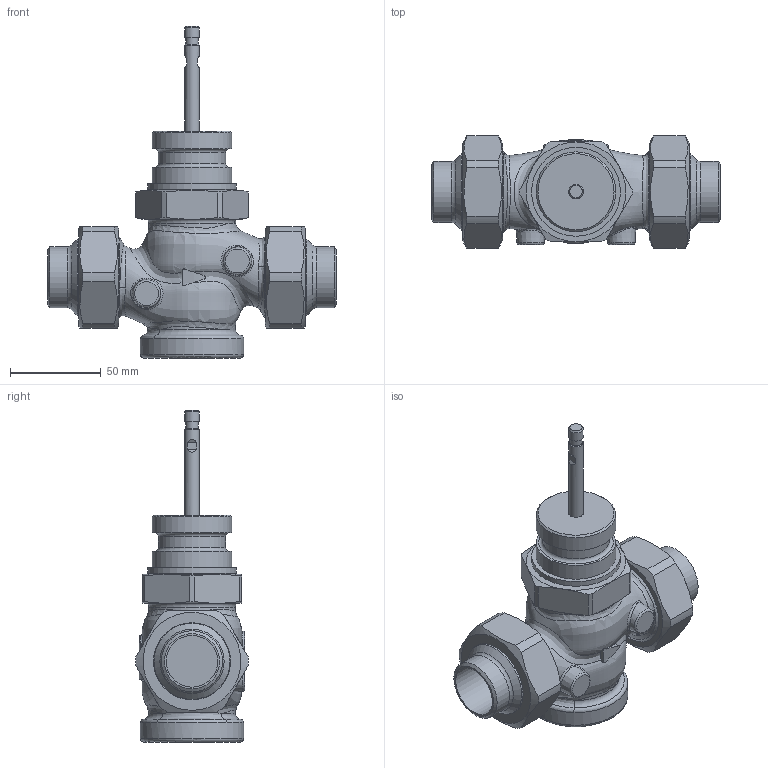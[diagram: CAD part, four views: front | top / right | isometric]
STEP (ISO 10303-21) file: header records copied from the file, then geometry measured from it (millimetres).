
FILE_DESCRIPTION(/* description */ (''),/* implementation_level */ '2;1');
FILE_NAME(/* name */ 'rv122_L_dn25_W.stp',/* time_stamp */ '2025-07-08T09:08:39+02:00',/* author */ ('Jan Novák'),/* organization */ ('LDM'),/* preprocessor_version */ 'ST-DEVELOPER v18.102',/* originating_system */ 'SIEMENS PLM Software NX2206.3001',/* authorisation */ '');
FILE_SCHEMA (('AUTOMOTIVE_DESIGN { 1 0 10303 214 3 1 1 1 }'));
Length unit declared in the file: millimetre
Products named in the file (1): rv_0763-766_rv122_L_dn25_objects
Bounding box: 159 x 61.98 x 183.1 mm (x, y, z)
Volume: 429770.3 mm3; surface area: 75165.3 mm2
Topology: 7 solids, 7 shells, 185 faces, 421 edges, 267 vertices
Faces by surface type: plane 60, cylinder 55, cone 35, bspline 25, torus 10
Full cylindrical faces by diameter (mm): 7 x1, 8 x2, 28.5 x2, 33 x2, 33.7 x2, 37 x1, 38 x1, 42 x2, 42.5 x2, 44 x4, 44.5 x2, 44.845 x2, 47.8 x2, 49 x1, 57 x1
Entity records: 11541 total; most frequent: CARTESIAN_POINT 7806, DIRECTION 705, ORIENTED_EDGE 652, EDGE_CURVE 326, AXIS2_PLACEMENT_3D 324, EDGE_LOOP 276, VERTEX_POINT 234, ADVANCED_FACE 185
